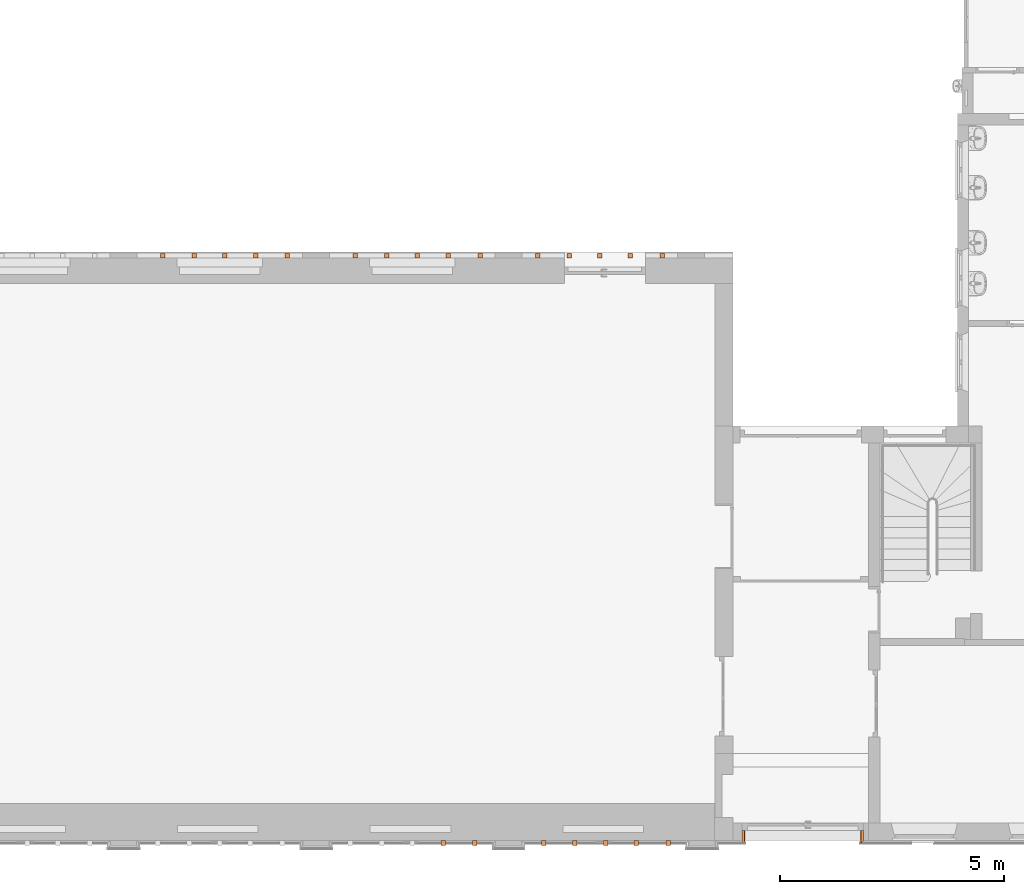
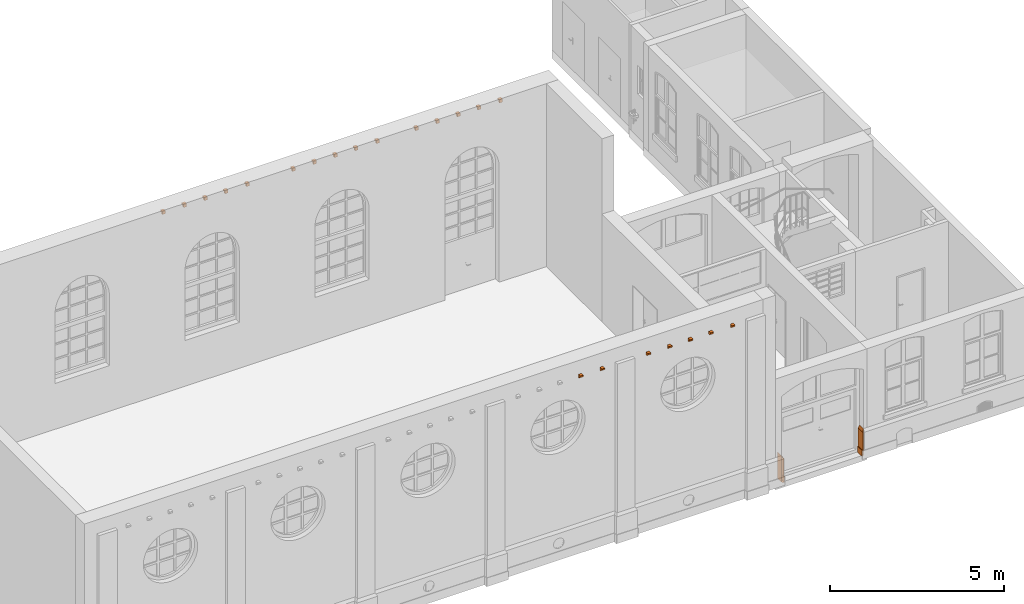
"""IFC4 building model written with IfcOpenShell, lengths in metres."""

from ifc_helpers import new_model, entity, si_unit, converted_unit, derived_unit, frame, origin, place, context, subcontext, project, spatial, open_shell, faceted_brep, surface_model, element, save


model = new_model("IFC4")

# Units and contexts
model_context = context("Model", 3, precision=1e-05, world=origin())
body_context = subcontext(model_context, "Body", "Model", "MODEL_VIEW")
ifc_project = project(units=[si_unit("LENGTHUNIT", "METRE"), si_unit("AREAUNIT", "SQUARE_METRE"), si_unit("VOLUMEUNIT", "CUBIC_METRE"), si_unit("MASSUNIT", "GRAM", prefix="KILO"), converted_unit("PLANEANGLEUNIT", "DEGREE", entity("IfcPlaneAngleMeasure", 0.0174532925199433), si_unit("PLANEANGLEUNIT", "RADIAN"), dimensions=[0, 0, 0, 0, 0, 0, 0]), derived_unit("THERMALTRANSMITTANCEUNIT", [(si_unit("POWERUNIT", "WATT"), 1), (si_unit("THERMODYNAMICTEMPERATUREUNIT", "KELVIN"), -1), (si_unit("LENGTHUNIT", "METRE"), -2)]), derived_unit("VOLUMETRICFLOWRATEUNIT", [(si_unit("LENGTHUNIT", "METRE"), 3), (converted_unit("TIMEUNIT", "hour", entity("IfcTimeMeasure", 3600.0), si_unit("TIMEUNIT", "SECOND"), dimensions=[0, 0, 1, 0, 0, 0, 0]), -1), (si_unit("LENGTHUNIT", "METRE"), -1)])], contexts=[model_context])

# Building, storeys
building_placement = place(None, origin())
building = spatial("IfcBuilding", under=ifc_project, at=building_placement, Name="Bestandsgebäude A - Sporthalle / Wohnhaus (TB 100-499)   ANPASSEN !!!", CompositionType="ELEMENT")
storey_1_placement = place(building_placement, origin())
storey_1 = spatial("IfcBuildingStorey", under=building, at=storey_1_placement, Name="Geb. A Erdgeschoss (TB 200-249)", CompositionType="ELEMENT", Elevation=0.0)
storey_2_placement = place(storey_1_placement, origin())
storey_2 = spatial("IfcBuildingStorey", under=storey_1, at=storey_2_placement, Name="Architektur (TB 200-209)", CompositionType="PARTIAL")

# Proxies
proxy_1_placement = place(storey_2_placement, frame((-8.30000000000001, -0.050000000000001, -0.21)))
element("IfcBuildingElementProxy", 1, at=proxy_1_placement, inside=storey_2, context=body_context, shape_type="SurfaceModel", body=[
    surface_model("IfcShellBasedSurfaceModel", [(0.0, 0.269999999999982, 0.930000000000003), (0.0, 0.269999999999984, 0.0), (0.0699999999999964, 0.269999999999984, 0.0), (0.0699999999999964, 0.269999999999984, 0.210000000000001), (0.0499999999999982, 0.269999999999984, 0.210000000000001), (0.0499999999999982, 0.269999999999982, 0.830000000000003), (0.0, 0.0499999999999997, 0.930000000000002), (0.0, 0.0500000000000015, 0.0), (0.0699999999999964, 0.0, 0.0), (0.0699999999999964, 0.0, 0.21), (0.0499999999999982, 0.0, 0.21), (0.0499999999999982, 0.0, 0.830000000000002)], [open_shell([[[0, 1, 2, 3, 4, 5]], [[1, 0, 6, 7]], [[2, 1, 7, 8]], [[3, 2, 8, 9]], [[4, 3, 9, 10]], [[5, 4, 10, 11]], [[0, 5, 11, 6]]], orient=[[False], [False], [False], [False], [False], [False], [False]])]),
])
proxy_2_placement = place(storey_2_placement, frame((-5.65999999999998, -0.050000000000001, -0.21)))
element("IfcBuildingElementProxy", 2, at=proxy_2_placement, inside=storey_2, context=body_context, shape_type="SurfaceModel", body=[
    surface_model("IfcShellBasedSurfaceModel", [(0.0699999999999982, 0.269999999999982, 0.930000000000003), (0.0699999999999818, 0.269999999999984, 0.0), (0.0, 0.269999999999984, 0.0), (0.0, 0.269999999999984, 0.210000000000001), (0.0199999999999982, 0.269999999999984, 0.210000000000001), (0.0199999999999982, 0.269999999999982, 0.830000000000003), (0.0699999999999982, 0.0499999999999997, 0.930000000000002), (0.0699999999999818, 0.0500000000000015, 0.0), (0.0, 0.0, 0.0), (0.0, 0.0, 0.21), (0.0199999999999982, 0.0, 0.21), (0.0199999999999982, 0.0, 0.830000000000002)], [open_shell([[[0, 1, 2, 3, 4, 5]], [[1, 0, 6, 7]], [[2, 1, 7, 8]], [[3, 2, 8, 9]], [[4, 3, 9, 10]], [[5, 4, 10, 11]], [[0, 5, 11, 6]]], orient=[[False], [False], [False], [False], [False], [False], [False]])]),
])
for number, where in (
    (3, (-10.1271205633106, 12.9999999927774, 5.81323934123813)),
    (4, (-12.91, 12.9999999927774, 5.81323934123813)),
):
    element("IfcBuildingElementProxy", number, at=place(storey_2_placement, frame(where)), inside=storey_2, context=body_context, shape_type="Brep", body=[
        faceted_brep([(0.100000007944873, 0.0, 0.10676065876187), (0.100000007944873, 0.0, 0.0), (0.0, 0.0, 0.0), (0.0, 0.0, 0.10676065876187), (0.10000000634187, 0.0221942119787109, 0.0), (0.0, 0.0221942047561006, 0.0), (0.100000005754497, 0.0303266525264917, 0.00115963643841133), (0.0, 0.0303266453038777, 0.00115963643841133), (0.100000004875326, 0.0424991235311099, 0.00476296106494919), (0.0, 0.042499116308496, 0.00476296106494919), (0.100000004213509, 0.0516622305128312, 0.00852666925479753), (0.0, 0.0516622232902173, 0.00852666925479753), (0.100000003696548, 0.0588197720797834, 0.0140969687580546), (0.0, 0.0588197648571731, 0.0140969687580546), (0.100000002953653, 0.069105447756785, 0.0295254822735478), (0.0, 0.0691054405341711, 0.0295254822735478), (0.100000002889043, 0.0700000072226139, 0.0333518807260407), (0.0, 0.07, 0.0333518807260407), (0.100000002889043, 0.0700000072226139, 0.0567606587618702), (0.0, 0.07, 0.0567606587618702), (0.0999999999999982, 0.110000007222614, 0.0567606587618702), (0.0, 0.11, 0.0567606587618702), (0.0999999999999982, 0.110000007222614, 0.10676065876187), (0.0, 0.11, 0.10676065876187)], [[[0, 1, 2, 3]], [[1, 4, 5, 2]], [[4, 6, 7, 5]], [[6, 8, 9, 7]], [[8, 10, 11, 9]], [[10, 12, 13, 11]], [[12, 14, 15, 13]], [[14, 16, 17, 15]], [[16, 18, 19, 17]], [[18, 20, 21, 19]], [[20, 22, 23, 21]], [[22, 0, 3, 23]], [[0, 22, 20, 18, 16, 14, 12, 10, 8, 6, 4, 1]], [[3, 2, 5, 7, 9, 11, 13, 15, 17, 19, 21, 23]]], orient=[[False], [False], [False], [False], [False], [False], [False], [False], [False], [False], [False], [False], [False], [False]]),
    ])
for number, where in (
    (5, (-12.21, 13.0000000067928, 5.81323934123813)),
    (6, (-11.525, 12.9999999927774, 5.81323934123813)),
    (7, (-10.84, 12.9999999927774, 5.81323934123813)),
):
    element("IfcBuildingElementProxy", number, at=place(storey_2_placement, frame(where)), inside=storey_2, context=body_context, shape_type="Brep", body=[
        faceted_brep([(0.100000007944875, 0.0, 0.10676065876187), (0.100000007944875, 0.0, 0.0), (0.0, 0.0, 0.0), (0.0, 0.0, 0.10676065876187), (0.100000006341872, 0.0221942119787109, 0.0), (0.0, 0.0221942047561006, 0.0), (0.100000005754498, 0.0303266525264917, 0.00115963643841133), (0.0, 0.0303266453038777, 0.00115963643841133), (0.100000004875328, 0.0424991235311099, 0.00476296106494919), (0.0, 0.042499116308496, 0.00476296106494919), (0.100000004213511, 0.0516622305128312, 0.00852666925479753), (0.0, 0.0516622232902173, 0.00852666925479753), (0.10000000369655, 0.0588197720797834, 0.0140969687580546), (0.0, 0.0588197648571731, 0.0140969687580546), (0.100000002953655, 0.069105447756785, 0.0295254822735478), (0.0, 0.0691054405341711, 0.0295254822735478), (0.100000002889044, 0.0700000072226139, 0.0333518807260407), (0.0, 0.07, 0.0333518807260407), (0.100000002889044, 0.0700000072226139, 0.0567606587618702), (0.0, 0.07, 0.0567606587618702), (0.1, 0.110000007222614, 0.0567606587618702), (0.0, 0.11, 0.0567606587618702), (0.1, 0.110000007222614, 0.10676065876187), (0.0, 0.11, 0.10676065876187)], [[[0, 1, 2, 3]], [[1, 4, 5, 2]], [[4, 6, 7, 5]], [[6, 8, 9, 7]], [[8, 10, 11, 9]], [[10, 12, 13, 11]], [[12, 14, 15, 13]], [[14, 16, 17, 15]], [[16, 18, 19, 17]], [[18, 20, 21, 19]], [[20, 22, 23, 21]], [[22, 0, 3, 23]], [[0, 22, 20, 18, 16, 14, 12, 10, 8, 6, 4, 1]], [[3, 2, 5, 7, 9, 11, 13, 15, 17, 19, 21, 23]]], orient=[[False], [False], [False], [False], [False], [False], [False], [False], [False], [False], [False], [False], [False], [False]]),
    ])
proxy_3_placement = place(storey_2_placement, frame((-14.1971205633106, 12.9999999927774, 5.81323934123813)))
element("IfcBuildingElementProxy", 8, at=proxy_3_placement, inside=storey_2, context=body_context, shape_type="Brep", body=[
    faceted_brep([(0.100000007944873, 0.0, 0.10676065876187), (0.100000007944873, 0.0, 0.0), (0.0, 0.0, 0.0), (0.0, 0.0, 0.10676065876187), (0.10000000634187, 0.0221942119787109, 0.0), (0.0, 0.0221942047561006, 0.0), (0.100000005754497, 0.0303266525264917, 0.00115963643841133), (0.0, 0.0303266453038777, 0.00115963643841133), (0.100000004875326, 0.0424991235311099, 0.00476296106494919), (0.0, 0.042499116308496, 0.00476296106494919), (0.100000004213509, 0.0516622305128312, 0.00852666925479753), (0.0, 0.0516622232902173, 0.00852666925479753), (0.100000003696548, 0.0588197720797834, 0.0140969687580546), (0.0, 0.0588197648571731, 0.0140969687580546), (0.100000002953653, 0.069105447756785, 0.0295254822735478), (0.0, 0.0691054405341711, 0.0295254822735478), (0.100000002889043, 0.0700000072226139, 0.0333518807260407), (0.0, 0.07, 0.0333518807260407), (0.100000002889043, 0.0700000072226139, 0.0567606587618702), (0.0, 0.07, 0.0567606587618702), (0.0999999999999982, 0.110000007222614, 0.0567606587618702), (0.0, 0.11, 0.0567606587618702), (0.0999999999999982, 0.110000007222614, 0.10676065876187), (0.0, 0.11, 0.10676065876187)], [[[0, 1, 2, 3]], [[1, 4, 5, 2]], [[4, 6, 7, 5]], [[6, 8, 9, 7]], [[8, 10, 11, 9]], [[10, 12, 13, 11]], [[12, 14, 15, 13]], [[14, 16, 17, 15]], [[16, 18, 19, 17]], [[18, 20, 21, 19]], [[20, 22, 23, 21]], [[22, 0, 3, 23]], [[0, 22, 20, 18, 16, 14, 12, 10, 8, 6, 4, 1]], [[3, 2, 5, 7, 9, 11, 13, 15, 17, 19, 21, 23]]], orient=[[False], [False], [False], [False], [False], [False], [False], [False], [False], [False], [False], [False], [False], [False]]),
])
proxy_4_placement = place(storey_2_placement, frame((-16.98, 12.9999999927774, 5.81323934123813)))
element("IfcBuildingElementProxy", 9, at=proxy_4_placement, inside=storey_2, context=body_context, shape_type="Brep", body=[
    faceted_brep([(0.100000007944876, 0.0, 0.10676065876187), (0.100000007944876, 0.0, 0.0), (0.0, 0.0, 0.0), (0.0, 0.0, 0.10676065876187), (0.100000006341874, 0.0221942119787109, 0.0), (0.0, 0.0221942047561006, 0.0), (0.1000000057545, 0.0303266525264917, 0.00115963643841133), (0.0, 0.0303266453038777, 0.00115963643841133), (0.100000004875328, 0.0424991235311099, 0.00476296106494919), (0.0, 0.042499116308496, 0.00476296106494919), (0.100000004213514, 0.0516622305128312, 0.00852666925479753), (0.0, 0.0516622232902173, 0.00852666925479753), (0.10000000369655, 0.0588197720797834, 0.0140969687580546), (0.0, 0.0588197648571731, 0.0140969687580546), (0.100000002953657, 0.069105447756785, 0.0295254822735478), (0.0, 0.0691054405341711, 0.0295254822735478), (0.100000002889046, 0.0700000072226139, 0.0333518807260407), (0.0, 0.07, 0.0333518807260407), (0.100000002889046, 0.0700000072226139, 0.0567606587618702), (0.0, 0.07, 0.0567606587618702), (0.1, 0.110000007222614, 0.0567606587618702), (0.0, 0.11, 0.0567606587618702), (0.1, 0.110000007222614, 0.10676065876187), (0.0, 0.11, 0.10676065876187)], [[[0, 1, 2, 3]], [[1, 4, 5, 2]], [[4, 6, 7, 5]], [[6, 8, 9, 7]], [[8, 10, 11, 9]], [[10, 12, 13, 11]], [[12, 14, 15, 13]], [[14, 16, 17, 15]], [[16, 18, 19, 17]], [[18, 20, 21, 19]], [[20, 22, 23, 21]], [[22, 0, 3, 23]], [[0, 22, 20, 18, 16, 14, 12, 10, 8, 6, 4, 1]], [[3, 2, 5, 7, 9, 11, 13, 15, 17, 19, 21, 23]]], orient=[[False], [False], [False], [False], [False], [False], [False], [False], [False], [False], [False], [False], [False], [False]]),
])
for number, where in (
    (10, (-16.28, 13.0000000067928, 5.81323934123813)),
    (11, (-15.595, 12.9999999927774, 5.81323934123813)),
    (12, (-14.91, 12.9999999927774, 5.81323934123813)),
):
    element("IfcBuildingElementProxy", number, at=place(storey_2_placement, frame(where)), inside=storey_2, context=body_context, shape_type="Brep", body=[
        faceted_brep([(0.100000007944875, 0.0, 0.10676065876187), (0.100000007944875, 0.0, 0.0), (0.0, 0.0, 0.0), (0.0, 0.0, 0.10676065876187), (0.100000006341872, 0.0221942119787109, 0.0), (0.0, 0.0221942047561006, 0.0), (0.100000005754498, 0.0303266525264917, 0.00115963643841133), (0.0, 0.0303266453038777, 0.00115963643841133), (0.100000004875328, 0.0424991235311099, 0.00476296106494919), (0.0, 0.042499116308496, 0.00476296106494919), (0.100000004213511, 0.0516622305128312, 0.00852666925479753), (0.0, 0.0516622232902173, 0.00852666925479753), (0.10000000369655, 0.0588197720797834, 0.0140969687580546), (0.0, 0.0588197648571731, 0.0140969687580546), (0.100000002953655, 0.069105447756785, 0.0295254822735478), (0.0, 0.0691054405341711, 0.0295254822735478), (0.100000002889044, 0.0700000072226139, 0.0333518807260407), (0.0, 0.07, 0.0333518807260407), (0.100000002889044, 0.0700000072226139, 0.0567606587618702), (0.0, 0.07, 0.0567606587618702), (0.1, 0.110000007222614, 0.0567606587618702), (0.0, 0.11, 0.0567606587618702), (0.1, 0.110000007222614, 0.10676065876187), (0.0, 0.11, 0.10676065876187)], [[[0, 1, 2, 3]], [[1, 4, 5, 2]], [[4, 6, 7, 5]], [[6, 8, 9, 7]], [[8, 10, 11, 9]], [[10, 12, 13, 11]], [[12, 14, 15, 13]], [[14, 16, 17, 15]], [[16, 18, 19, 17]], [[18, 20, 21, 19]], [[20, 22, 23, 21]], [[22, 0, 3, 23]], [[0, 22, 20, 18, 16, 14, 12, 10, 8, 6, 4, 1]], [[3, 2, 5, 7, 9, 11, 13, 15, 17, 19, 21, 23]]], orient=[[False], [False], [False], [False], [False], [False], [False], [False], [False], [False], [False], [False], [False], [False]]),
    ])
proxy_5_placement = place(storey_2_placement, frame((-18.4971205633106, 12.9999999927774, 5.81323934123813)))
element("IfcBuildingElementProxy", 13, at=proxy_5_placement, inside=storey_2, context=body_context, shape_type="Brep", body=[
    faceted_brep([(0.10000000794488, 0.0, 0.10676065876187), (0.10000000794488, 0.0, 0.0), (0.0, 0.0, 0.0), (0.0, 0.0, 0.10676065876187), (0.100000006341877, 0.0221942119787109, 0.0), (0.0, 0.0221942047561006, 0.0), (0.100000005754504, 0.0303266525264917, 0.00115963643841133), (0.0, 0.0303266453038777, 0.00115963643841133), (0.100000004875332, 0.0424991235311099, 0.00476296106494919), (0.0, 0.042499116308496, 0.00476296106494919), (0.100000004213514, 0.0516622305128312, 0.00852666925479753), (0.0, 0.0516622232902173, 0.00852666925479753), (0.100000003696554, 0.0588197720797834, 0.0140969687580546), (0.0, 0.0588197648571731, 0.0140969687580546), (0.10000000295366, 0.069105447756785, 0.0295254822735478), (0.0, 0.0691054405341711, 0.0295254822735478), (0.10000000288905, 0.0700000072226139, 0.0333518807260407), (0.0, 0.07, 0.0333518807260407), (0.10000000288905, 0.0700000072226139, 0.0567606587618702), (0.0, 0.07, 0.0567606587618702), (0.100000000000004, 0.110000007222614, 0.0567606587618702), (0.0, 0.11, 0.0567606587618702), (0.100000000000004, 0.110000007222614, 0.10676065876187), (0.0, 0.11, 0.10676065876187)], [[[0, 1, 2, 3]], [[1, 4, 5, 2]], [[4, 6, 7, 5]], [[6, 8, 9, 7]], [[8, 10, 11, 9]], [[10, 12, 13, 11]], [[12, 14, 15, 13]], [[14, 16, 17, 15]], [[16, 18, 19, 17]], [[18, 20, 21, 19]], [[20, 22, 23, 21]], [[22, 0, 3, 23]], [[0, 22, 20, 18, 16, 14, 12, 10, 8, 6, 4, 1]], [[3, 2, 5, 7, 9, 11, 13, 15, 17, 19, 21, 23]]], orient=[[False], [False], [False], [False], [False], [False], [False], [False], [False], [False], [False], [False], [False], [False]]),
])
proxy_6_placement = place(storey_2_placement, frame((-21.28, 12.9999999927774, 5.81323934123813)))
element("IfcBuildingElementProxy", 14, at=proxy_6_placement, inside=storey_2, context=body_context, shape_type="Brep", body=[
    faceted_brep([(0.100000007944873, 0.0, 0.10676065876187), (0.100000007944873, 0.0, 0.0), (0.0, 0.0, 0.0), (0.0, 0.0, 0.10676065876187), (0.10000000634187, 0.0221942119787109, 0.0), (0.0, 0.0221942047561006, 0.0), (0.100000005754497, 0.0303266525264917, 0.00115963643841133), (0.0, 0.0303266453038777, 0.00115963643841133), (0.100000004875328, 0.0424991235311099, 0.00476296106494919), (0.0, 0.042499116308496, 0.00476296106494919), (0.100000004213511, 0.0516622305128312, 0.00852666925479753), (0.0, 0.0516622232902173, 0.00852666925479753), (0.10000000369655, 0.0588197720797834, 0.0140969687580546), (0.0, 0.0588197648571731, 0.0140969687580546), (0.100000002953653, 0.069105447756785, 0.0295254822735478), (0.0, 0.0691054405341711, 0.0295254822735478), (0.100000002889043, 0.0700000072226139, 0.0333518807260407), (0.0, 0.07, 0.0333518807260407), (0.100000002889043, 0.0700000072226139, 0.0567606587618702), (0.0, 0.07, 0.0567606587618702), (0.1, 0.110000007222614, 0.0567606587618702), (0.0, 0.11, 0.0567606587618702), (0.1, 0.110000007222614, 0.10676065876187), (0.0, 0.11, 0.10676065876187)], [[[0, 1, 2, 3]], [[1, 4, 5, 2]], [[4, 6, 7, 5]], [[6, 8, 9, 7]], [[8, 10, 11, 9]], [[10, 12, 13, 11]], [[12, 14, 15, 13]], [[14, 16, 17, 15]], [[16, 18, 19, 17]], [[18, 20, 21, 19]], [[20, 22, 23, 21]], [[22, 0, 3, 23]], [[0, 22, 20, 18, 16, 14, 12, 10, 8, 6, 4, 1]], [[3, 2, 5, 7, 9, 11, 13, 15, 17, 19, 21, 23]]], orient=[[False], [False], [False], [False], [False], [False], [False], [False], [False], [False], [False], [False], [False], [False]]),
])
for number, where in (
    (15, (-20.58, 13.0000000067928, 5.81323934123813)),
    (16, (-19.895, 12.9999999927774, 5.81323934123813)),
):
    element("IfcBuildingElementProxy", number, at=place(storey_2_placement, frame(where)), inside=storey_2, context=body_context, shape_type="Brep", body=[
        faceted_brep([(0.100000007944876, 0.0, 0.10676065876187), (0.100000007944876, 0.0, 0.0), (0.0, 0.0, 0.0), (0.0, 0.0, 0.10676065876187), (0.100000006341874, 0.0221942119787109, 0.0), (0.0, 0.0221942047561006, 0.0), (0.1000000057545, 0.0303266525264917, 0.00115963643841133), (0.0, 0.0303266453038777, 0.00115963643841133), (0.100000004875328, 0.0424991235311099, 0.00476296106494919), (0.0, 0.042499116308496, 0.00476296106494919), (0.100000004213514, 0.0516622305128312, 0.00852666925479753), (0.0, 0.0516622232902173, 0.00852666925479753), (0.10000000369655, 0.0588197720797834, 0.0140969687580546), (0.0, 0.0588197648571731, 0.0140969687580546), (0.100000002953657, 0.069105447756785, 0.0295254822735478), (0.0, 0.0691054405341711, 0.0295254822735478), (0.100000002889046, 0.0700000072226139, 0.0333518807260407), (0.0, 0.07, 0.0333518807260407), (0.100000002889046, 0.0700000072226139, 0.0567606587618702), (0.0, 0.07, 0.0567606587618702), (0.1, 0.110000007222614, 0.0567606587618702), (0.0, 0.11, 0.0567606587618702), (0.1, 0.110000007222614, 0.10676065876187), (0.0, 0.11, 0.10676065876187)], [[[0, 1, 2, 3]], [[1, 4, 5, 2]], [[4, 6, 7, 5]], [[6, 8, 9, 7]], [[8, 10, 11, 9]], [[10, 12, 13, 11]], [[12, 14, 15, 13]], [[14, 16, 17, 15]], [[16, 18, 19, 17]], [[18, 20, 21, 19]], [[20, 22, 23, 21]], [[22, 0, 3, 23]], [[0, 22, 20, 18, 16, 14, 12, 10, 8, 6, 4, 1]], [[3, 2, 5, 7, 9, 11, 13, 15, 17, 19, 21, 23]]], orient=[[False], [False], [False], [False], [False], [False], [False], [False], [False], [False], [False], [False], [False], [False]]),
    ])
proxy_7_placement = place(storey_2_placement, frame((-19.21, 12.9999999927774, 5.81323934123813)))
element("IfcBuildingElementProxy", 17, at=proxy_7_placement, inside=storey_2, context=body_context, shape_type="Brep", body=[
    faceted_brep([(0.100000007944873, 0.0, 0.10676065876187), (0.100000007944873, 0.0, 0.0), (0.0, 0.0, 0.0), (0.0, 0.0, 0.10676065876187), (0.10000000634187, 0.0221942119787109, 0.0), (0.0, 0.0221942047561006, 0.0), (0.100000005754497, 0.0303266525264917, 0.00115963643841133), (0.0, 0.0303266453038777, 0.00115963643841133), (0.100000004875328, 0.0424991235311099, 0.00476296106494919), (0.0, 0.042499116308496, 0.00476296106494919), (0.100000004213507, 0.0516622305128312, 0.00852666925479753), (0.0, 0.0516622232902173, 0.00852666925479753), (0.10000000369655, 0.0588197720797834, 0.0140969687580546), (0.0, 0.0588197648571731, 0.0140969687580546), (0.100000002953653, 0.069105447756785, 0.0295254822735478), (0.0, 0.0691054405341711, 0.0295254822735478), (0.100000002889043, 0.0700000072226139, 0.0333518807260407), (0.0, 0.07, 0.0333518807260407), (0.100000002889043, 0.0700000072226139, 0.0567606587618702), (0.0, 0.07, 0.0567606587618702), (0.1, 0.110000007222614, 0.0567606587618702), (0.0, 0.11, 0.0567606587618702), (0.1, 0.110000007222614, 0.10676065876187), (0.0, 0.11, 0.10676065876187)], [[[0, 1, 2, 3]], [[1, 4, 5, 2]], [[4, 6, 7, 5]], [[6, 8, 9, 7]], [[8, 10, 11, 9]], [[10, 12, 13, 11]], [[12, 14, 15, 13]], [[14, 16, 17, 15]], [[16, 18, 19, 17]], [[18, 20, 21, 19]], [[20, 22, 23, 21]], [[22, 0, 3, 23]], [[0, 22, 20, 18, 16, 14, 12, 10, 8, 6, 4, 1]], [[3, 2, 5, 7, 9, 11, 13, 15, 17, 19, 21, 23]]], orient=[[False], [False], [False], [False], [False], [False], [False], [False], [False], [False], [False], [False], [False], [False]]),
])
for number, where in (
    (18, (-9.99712056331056, -0.110000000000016, 5.81323934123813)),
    (19, (-12.78, -0.11000000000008, 5.81323934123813)),
    (20, (-12.08, -0.110000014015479, 5.81323934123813)),
    (21, (-11.395, -0.110000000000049, 5.81323934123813)),
    (22, (-10.71, -0.110000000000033, 5.81323934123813)),
    (23, (-14.3121205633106, -0.110000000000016, 5.81323934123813)),
    (24, (-15.025, -0.110000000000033, 5.81323934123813)),
):
    element("IfcBuildingElementProxy", number, at=place(storey_2_placement, frame(where)), inside=storey_2, context=body_context, shape_type="Brep", body=[
        faceted_brep([(0.100000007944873, 0.11, 0.10676065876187), (0.0, 0.110000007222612, 0.10676065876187), (0.0, 0.11000000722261, 0.0), (0.100000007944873, 0.109999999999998, 0.0), (0.0, 0.0878058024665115, 0.0), (0.10000000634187, 0.087805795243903, 0.0), (0.0, 0.0796733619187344, 0.00115963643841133), (0.100000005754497, 0.0796733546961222, 0.00115963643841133), (0.0, 0.0675008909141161, 0.00476296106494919), (0.100000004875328, 0.067500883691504, 0.00476296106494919), (0.0, 0.0583377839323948, 0.00852666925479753), (0.100000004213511, 0.0583377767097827, 0.00852666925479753), (0.0, 0.051180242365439, 0.0140969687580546), (0.10000000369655, 0.0511802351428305, 0.0140969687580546), (0.0, 0.040894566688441, 0.0295254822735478), (0.100000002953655, 0.0408945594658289, 0.0295254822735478), (0.0, 0.0400000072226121, 0.0333518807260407), (0.100000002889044, 0.04, 0.0333518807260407), (0.0, 0.0400000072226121, 0.0567606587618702), (0.100000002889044, 0.04, 0.0567606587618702), (0.0, 0.0, 0.0567606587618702), (0.1, 0.0, 0.0567606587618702), (0.0, 0.0, 0.10676065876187), (0.1, 0.0, 0.10676065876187)], [[[0, 1, 2, 3]], [[3, 2, 4, 5]], [[5, 4, 6, 7]], [[7, 6, 8, 9]], [[9, 8, 10, 11]], [[11, 10, 12, 13]], [[13, 12, 14, 15]], [[15, 14, 16, 17]], [[17, 16, 18, 19]], [[19, 18, 20, 21]], [[21, 20, 22, 23]], [[23, 22, 1, 0]], [[0, 3, 5, 7, 9, 11, 13, 15, 17, 19, 21, 23]], [[1, 22, 20, 18, 16, 14, 12, 10, 8, 6, 4, 2]]], orient=[[False], [False], [False], [False], [False], [False], [False], [False], [False], [False], [False], [False], [False], [False]]),
    ])

save(model, "model.ifc")
